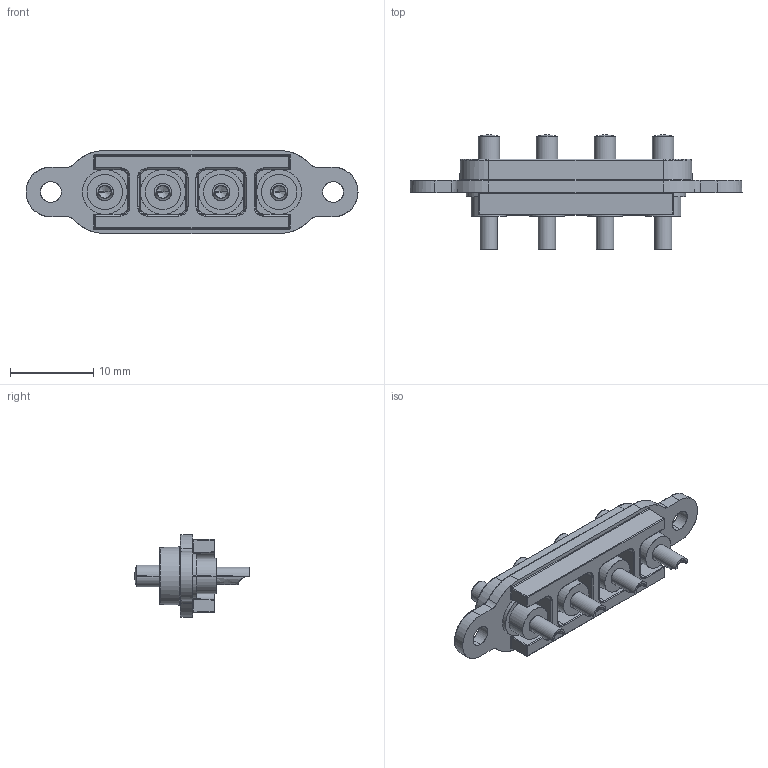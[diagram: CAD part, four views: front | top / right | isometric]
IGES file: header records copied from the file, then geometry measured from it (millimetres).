
Start section: SolidWorks IGES file using analytic representation for surfaces
Global section: file name: F:\OneDrive\Desktop\Coda\28.7\Swift-Dock add 3D\Swift-Dock add 3D\Swift-DOCK Ranges Completed\SD-POWER\SD-POWER-4-SC.IGS; native system: SolidWorks 2021; preprocessor: SolidWorks 2021; author: Georg; date: 210802.132127; units: millimetre
Bounding box: 40 x 13.8 x 10 mm (x, y, z)
Surface area: 2082.5 mm2 (no closed solid volume)
Topology: 0 solids, 0 shells, 576 faces, 4296 edges, 4078 vertices
Faces by surface type: revolution 424, bspline 152
